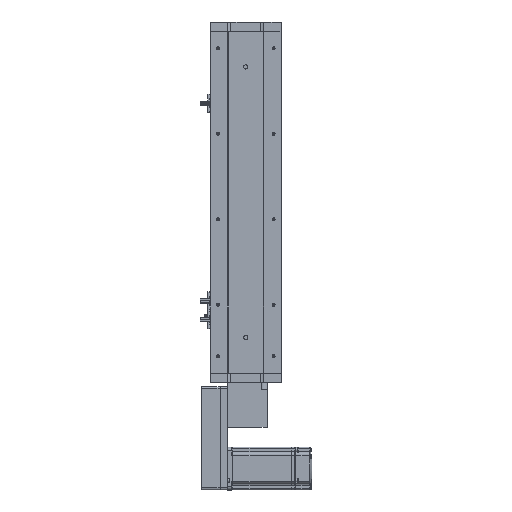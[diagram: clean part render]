
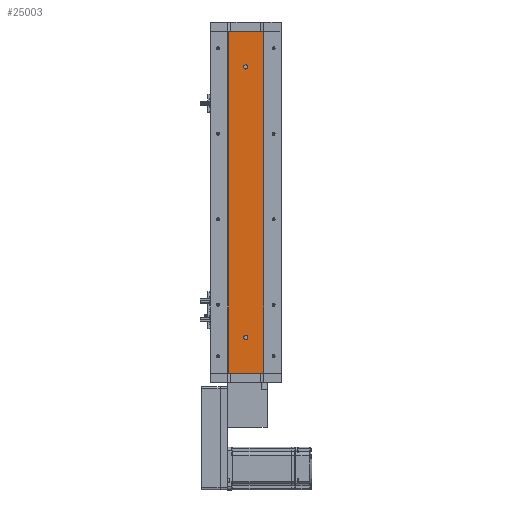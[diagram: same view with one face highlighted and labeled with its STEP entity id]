
A CAD part, left-side view. The second image highlights one B-rep face of the part: STEP entity #25003.
In plain terms, the highlighted planar face has unit normal (-1, 0, 0).
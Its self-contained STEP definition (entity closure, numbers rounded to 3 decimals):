
#224 = EDGE_LOOP ( 'NONE', ( #56976, #25121, #634, #35623 ) ) ;
#634 = ORIENTED_EDGE ( 'NONE', *, *, #48534, .F. ) ;
#892 = ORIENTED_EDGE ( 'NONE', *, *, #57984, .F. ) ;
#1488 = CARTESIAN_POINT ( 'NONE',  ( -18.926, 24.785, 0. ) ) ;
#1527 = FACE_OUTER_BOUND ( 'NONE', #224, .T. ) ;
#1954 = DIRECTION ( 'NONE',  ( 0., 0., 1. ) ) ;
#3511 = CARTESIAN_POINT ( 'NONE',  ( -18.926, 24.785, 480. ) ) ;
#3590 = EDGE_CURVE ( 'NONE', #50374, #30031, #23975, .T. ) ;
#4518 = VERTEX_POINT ( 'NONE', #21694 ) ;
#6116 = CARTESIAN_POINT ( 'NONE',  ( -18.926, -24.785, 0. ) ) ;
#6584 = CARTESIAN_POINT ( 'NONE',  ( -18.926, 0., 433. ) ) ;
#8325 = DIRECTION ( 'NONE',  ( 0., 0., -1. ) ) ;
#9777 = DIRECTION ( 'NONE',  ( 0., 0., -1. ) ) ;
#10206 = VECTOR ( 'NONE', #17561, 1000. ) ;
#10350 = LINE ( 'NONE', #23886, #46899 ) ;
#11303 = VERTEX_POINT ( 'NONE', #6116 ) ;
#11940 = CARTESIAN_POINT ( 'NONE',  ( -18.926, -24.785, 480. ) ) ;
#12305 = CIRCLE ( 'NONE', #60846, 3. ) ;
#12589 = CARTESIAN_POINT ( 'NONE',  ( -18.926, 24.785, 0. ) ) ;
#14112 = EDGE_CURVE ( 'NONE', #4518, #18835, #61852, .T. ) ;
#14361 = CARTESIAN_POINT ( 'NONE',  ( -18.926, -24.785, 480. ) ) ;
#15742 = VERTEX_POINT ( 'NONE', #31822 ) ;
#17183 = CARTESIAN_POINT ( 'NONE',  ( -18.926, 0., 430. ) ) ;
#17312 = ORIENTED_EDGE ( 'NONE', *, *, #25280, .F. ) ;
#17561 = DIRECTION ( 'NONE',  ( 0., -1., 0. ) ) ;
#18755 = CIRCLE ( 'NONE', #30248, 3. ) ;
#18835 = VERTEX_POINT ( 'NONE', #1488 ) ;
#21240 = DIRECTION ( 'NONE',  ( -1., 0., 0. ) ) ;
#21694 = CARTESIAN_POINT ( 'NONE',  ( -18.926, 24.785, 480. ) ) ;
#21966 = DIRECTION ( 'NONE',  ( 0., 0., 1. ) ) ;
#22424 = FACE_BOUND ( 'NONE', #31640, .T. ) ;
#22810 = VERTEX_POINT ( 'NONE', #11940 ) ;
#23886 = CARTESIAN_POINT ( 'NONE',  ( -18.926, 24.785, 480. ) ) ;
#23975 = CIRCLE ( 'NONE', #38229, 3. ) ;
#25003 = ADVANCED_FACE ( 'NONE', ( #25457, #22424, #1527 ), #50846, .F. ) ;
#25121 = ORIENTED_EDGE ( 'NONE', *, *, #59807, .F. ) ;
#25280 = EDGE_CURVE ( 'NONE', #15742, #46711, #59603, .T. ) ;
#25338 = VECTOR ( 'NONE', #46685, 1000. ) ;
#25457 = FACE_BOUND ( 'NONE', #56691, .T. ) ;
#26438 = DIRECTION ( 'NONE',  ( -1., 0., 0. ) ) ;
#30031 = VERTEX_POINT ( 'NONE', #30229 ) ;
#30229 = CARTESIAN_POINT ( 'NONE',  ( -18.926, 0., 53. ) ) ;
#30248 = AXIS2_PLACEMENT_3D ( 'NONE', #17183, #50539, #21966 ) ;
#30610 = DIRECTION ( 'NONE',  ( -1., 0., 0. ) ) ;
#30738 = EDGE_CURVE ( 'NONE', #18835, #11303, #35628, .T. ) ;
#31640 = EDGE_LOOP ( 'NONE', ( #38864, #17312 ) ) ;
#31822 = CARTESIAN_POINT ( 'NONE',  ( -18.926, 0., 427. ) ) ;
#32958 = AXIS2_PLACEMENT_3D ( 'NONE', #54964, #26438, #59724 ) ;
#34276 = VECTOR ( 'NONE', #9777, 1000. ) ;
#35623 = ORIENTED_EDGE ( 'NONE', *, *, #14112, .T. ) ;
#35628 = LINE ( 'NONE', #12589, #10206 ) ;
#36955 = DIRECTION ( 'NONE',  ( 1., 0., 0. ) ) ;
#37283 = AXIS2_PLACEMENT_3D ( 'NONE', #3511, #36955, #8325 ) ;
#38229 = AXIS2_PLACEMENT_3D ( 'NONE', #49813, #21240, #54612 ) ;
#38864 = ORIENTED_EDGE ( 'NONE', *, *, #58898, .F. ) ;
#41937 = CARTESIAN_POINT ( 'NONE',  ( -18.926, 24.785, 480. ) ) ;
#45096 = ORIENTED_EDGE ( 'NONE', *, *, #3590, .F. ) ;
#46685 = DIRECTION ( 'NONE',  ( 0., 0., -1. ) ) ;
#46711 = VERTEX_POINT ( 'NONE', #6584 ) ;
#46862 = LINE ( 'NONE', #14361, #34276 ) ;
#46899 = VECTOR ( 'NONE', #52420, 1000. ) ;
#48534 = EDGE_CURVE ( 'NONE', #4518, #22810, #10350, .T. ) ;
#49813 = CARTESIAN_POINT ( 'NONE',  ( -18.926, 0., 50. ) ) ;
#50374 = VERTEX_POINT ( 'NONE', #54080 ) ;
#50539 = DIRECTION ( 'NONE',  ( -1., 0., 0. ) ) ;
#50846 = PLANE ( 'NONE',  #37283 ) ;
#52420 = DIRECTION ( 'NONE',  ( 0., -1., 0. ) ) ;
#54080 = CARTESIAN_POINT ( 'NONE',  ( -18.926, 0., 47. ) ) ;
#54612 = DIRECTION ( 'NONE',  ( 0., 0., 1. ) ) ;
#54964 = CARTESIAN_POINT ( 'NONE',  ( -18.926, 0., 430. ) ) ;
#56691 = EDGE_LOOP ( 'NONE', ( #892, #45096 ) ) ;
#56976 = ORIENTED_EDGE ( 'NONE', *, *, #30738, .T. ) ;
#57984 = EDGE_CURVE ( 'NONE', #30031, #50374, #12305, .T. ) ;
#58898 = EDGE_CURVE ( 'NONE', #46711, #15742, #18755, .T. ) ;
#59059 = CARTESIAN_POINT ( 'NONE',  ( -18.926, 0., 50. ) ) ;
#59603 = CIRCLE ( 'NONE', #32958, 3. ) ;
#59724 = DIRECTION ( 'NONE',  ( 0., 0., 1. ) ) ;
#59807 = EDGE_CURVE ( 'NONE', #22810, #11303, #46862, .T. ) ;
#60846 = AXIS2_PLACEMENT_3D ( 'NONE', #59059, #30610, #1954 ) ;
#61852 = LINE ( 'NONE', #41937, #25338 ) ;
